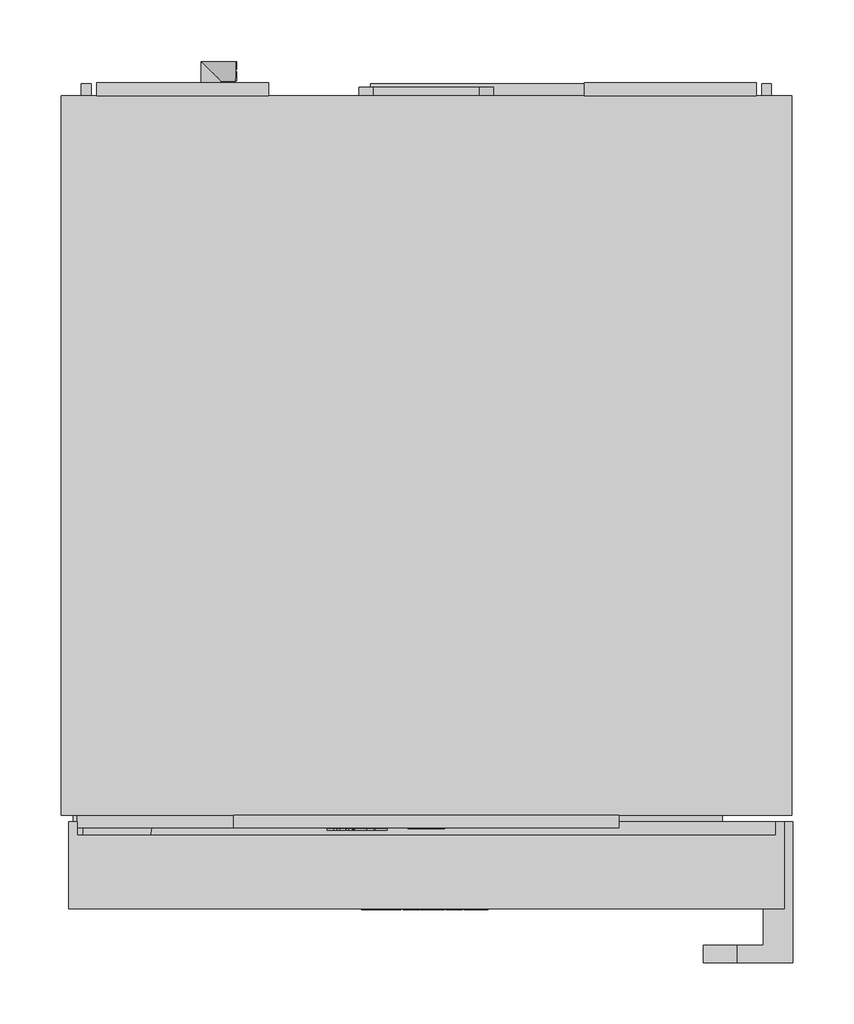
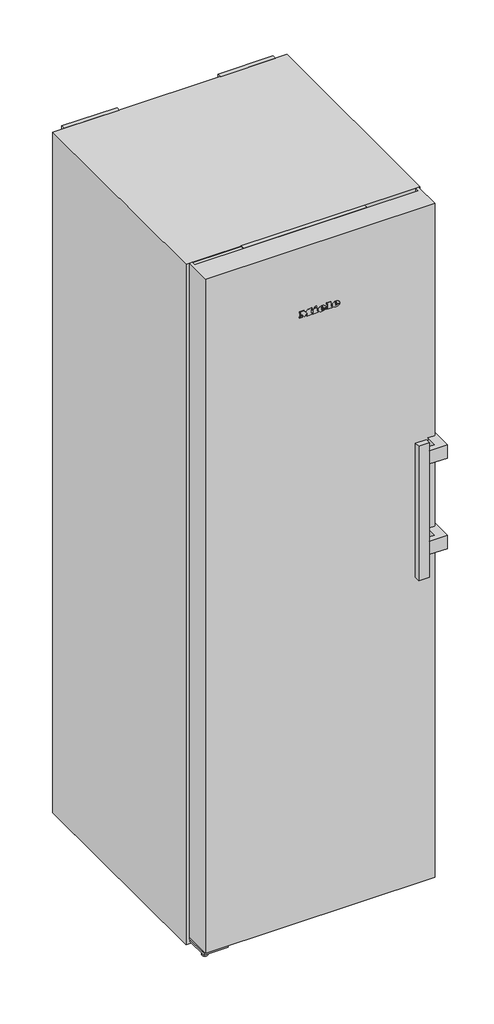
# Not in any storey: 1 proxy.
"""IFC4 building model written with IfcOpenShell, lengths in millimetres."""

from ifc_helpers import new_model, si_unit, origin, place, context, project, spatial, transform, mapped, element, save
from components import specialty_equipment_468a70fd

model = new_model("IFC4")

# Units and contexts
model_context = context("Model", 3, world=origin())
ifc_project = project(units=[si_unit("LENGTHUNIT", "METRE", prefix="MILLI")], contexts=[model_context])

# Site, building
site = spatial("IfcSite", under=ifc_project)
building = spatial("IfcBuilding", under=site)

# Proxy
placement = place(None, origin())
specialty_equipment_shape = specialty_equipment_468a70fd(model_context)
element("IfcBuildingElementProxy", 1, Name="12430760_EU2_FNS4782D_WS-N : 37478244_EU2_12430760_FNS4782D_WS-N", ObjectType="12430760_EU2_FNS4782D_WS-N : 37478244_EU2_12430760_FNS4782D_WS-N", at=placement, inside=building, context=model_context, shape_type="MappedRepresentation", body=[
    mapped(specialty_equipment_shape, transform((0.0, 0.0, 0.0), x_axis=(1.0, 0.0, 0.0), y_axis=(0.0, 1.0, 0.0), z_axis=(0.0, 0.0, 1.0))),
])

save(model, "model.ifc")
